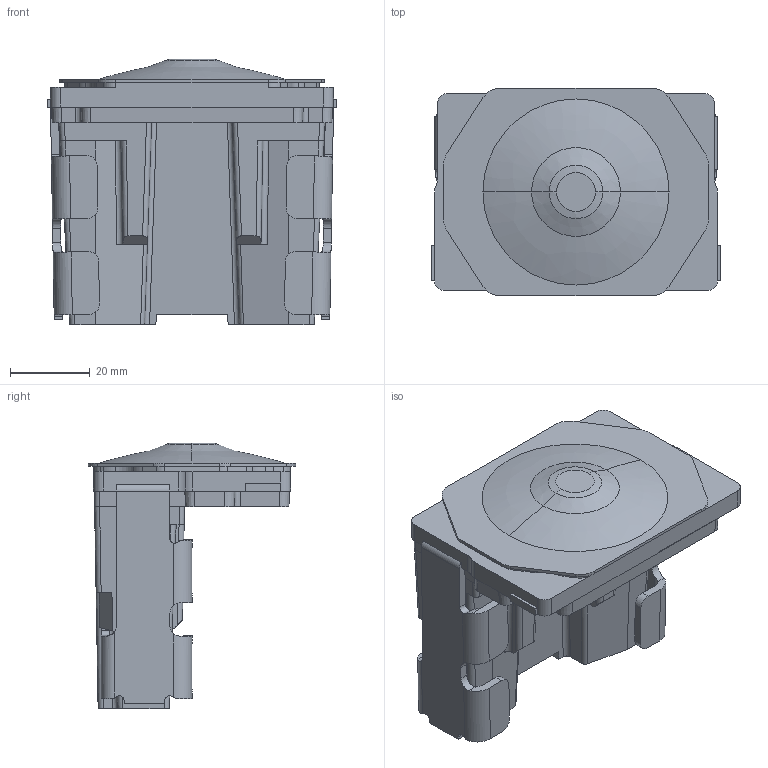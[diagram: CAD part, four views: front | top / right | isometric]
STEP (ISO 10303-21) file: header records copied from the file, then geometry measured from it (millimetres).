
FILE_DESCRIPTION((''),'2;1');
FILE_NAME('ITS035A-3D-20260623','2026-06-23T',('Administrator'),(''),'PRO/ENGINEER BY PARAMETRIC TECHNOLOGY CORPORATION, 2008380','PRO/ENGINEER BY PARAMETRIC TECHNOLOGY CORPORATION, 2008380','');
FILE_SCHEMA(('CONFIG_CONTROL_DESIGN'));
Length unit declared in the file: inch
Products named in the file (1): ITS035A-3D-20260623
Bounding box: 72.64 x 52.07 x 66.8 mm (x, y, z)
Volume: 80332.8 mm3; surface area: 31009.4 mm2
Topology: 1 solids, 2 shells, 333 faces, 1089 edges, 765 vertices
Faces by surface type: plane 165, cylinder 118, cone 34, bspline 10, torus 4, extrusion 2
Entity records: 13175 total; most frequent: CARTESIAN_POINT 3390, ORIENTED_EDGE 2178, DIRECTION 1994, EDGE_CURVE 1089, VERTEX_POINT 765, AXIS2_PLACEMENT_3D 714, VECTOR 566, LINE 564
